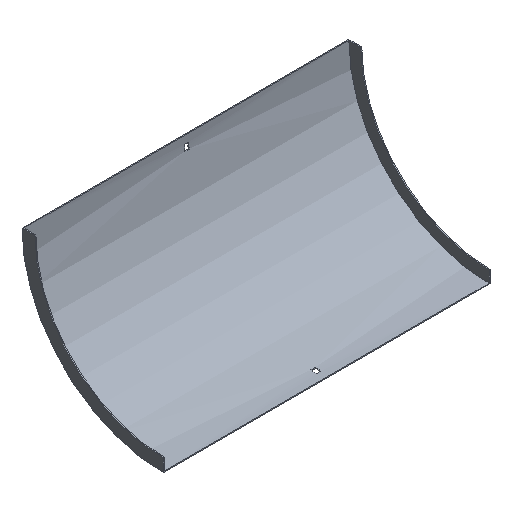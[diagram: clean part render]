
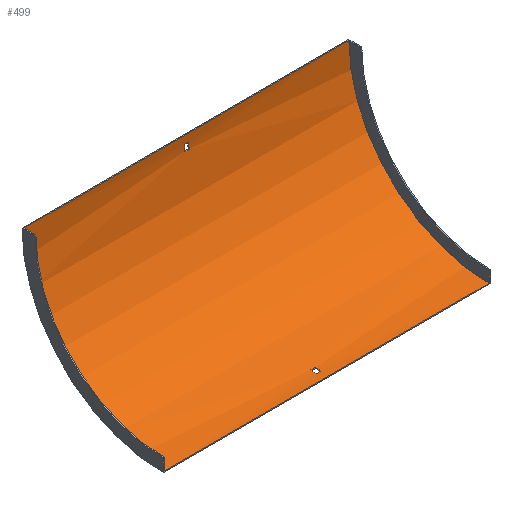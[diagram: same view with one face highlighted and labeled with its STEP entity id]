
A CAD part, isometric view. The second image highlights one B-rep face of the part: STEP entity #499.
In plain terms, the highlighted cylindrical face has radius 217.5 mm (diameter 435 mm), a partial arc.
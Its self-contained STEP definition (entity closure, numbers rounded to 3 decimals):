
#1 = LINE ( 'NONE', #38, #570 ) ;
#3 = CYLINDRICAL_SURFACE ( 'NONE', #494, 217.5 ) ;
#16 = CARTESIAN_POINT ( 'NONE',  ( -3.25, -219., 0. ) ) ;
#17 = VERTEX_POINT ( 'NONE', #207 ) ;
#21 = AXIS2_PLACEMENT_3D ( 'NONE', #83, #75, #263 ) ;
#38 = CARTESIAN_POINT ( 'NONE',  ( 253.5, -1.831, -12. ) ) ;
#47 = EDGE_CURVE ( 'NONE', #536, #415, #467, .T. ) ;
#49 = EDGE_CURVE ( 'NONE', #397, #317, #139, .T. ) ;
#57 = AXIS2_PLACEMENT_3D ( 'NONE', #474, #341, #99 ) ;
#61 = LINE ( 'NONE', #439, #308 ) ;
#65 = CARTESIAN_POINT ( 'NONE',  ( -3.25, -198., -216.484 ) ) ;
#66 = VECTOR ( 'NONE', #261, 1000. ) ;
#69 = VECTOR ( 'NONE', #420, 1000. ) ;
#75 = DIRECTION ( 'NONE',  ( 1., 0., 0. ) ) ;
#83 = CARTESIAN_POINT ( 'NONE',  ( -252., -219., 0. ) ) ;
#99 = DIRECTION ( 'NONE',  ( 0., 0., 1. ) ) ;
#101 = VERTEX_POINT ( 'NONE', #130 ) ;
#105 = ORIENTED_EDGE ( 'NONE', *, *, #245, .F. ) ;
#110 = VERTEX_POINT ( 'NONE', #461 ) ;
#116 = CARTESIAN_POINT ( 'NONE',  ( -3.25, -1.831, -12. ) ) ;
#117 = DIRECTION ( 'NONE',  ( -1., 0., 0. ) ) ;
#126 = CARTESIAN_POINT ( 'NONE',  ( 253.5, -207., -217.169 ) ) ;
#130 = CARTESIAN_POINT ( 'NONE',  ( 3.25, -2.516, -21. ) ) ;
#132 = FACE_BOUND ( 'NONE', #375, .T. ) ;
#138 = CARTESIAN_POINT ( 'NONE',  ( 252., -1.5, 0. ) ) ;
#139 = CIRCLE ( 'NONE', #57, 217.5 ) ;
#143 = EDGE_CURVE ( 'NONE', #147, #519, #271, .T. ) ;
#147 = VERTEX_POINT ( 'NONE', #464 ) ;
#152 = ORIENTED_EDGE ( 'NONE', *, *, #212, .T. ) ;
#155 = CIRCLE ( 'NONE', #506, 217.5 ) ;
#173 = DIRECTION ( 'NONE',  ( 0., 0., 1. ) ) ;
#182 = EDGE_CURVE ( 'NONE', #147, #574, #282, .T. ) ;
#183 = DIRECTION ( 'NONE',  ( -1., 0., 0. ) ) ;
#188 = EDGE_LOOP ( 'NONE', ( #296, #410, #587, #238 ) ) ;
#197 = DIRECTION ( 'NONE',  ( 1., 0., 0. ) ) ;
#203 = CARTESIAN_POINT ( 'NONE',  ( 3.25, -219., 0. ) ) ;
#207 = CARTESIAN_POINT ( 'NONE',  ( 3.25, -207., -217.169 ) ) ;
#212 = EDGE_CURVE ( 'NONE', #17, #536, #218, .T. ) ;
#218 = LINE ( 'NONE', #126, #470 ) ;
#225 = DIRECTION ( 'NONE',  ( -1., 0., 0. ) ) ;
#227 = CIRCLE ( 'NONE', #21, 217.5 ) ;
#230 = EDGE_CURVE ( 'NONE', #519, #110, #227, .T. ) ;
#238 = ORIENTED_EDGE ( 'NONE', *, *, #369, .T. ) ;
#240 = EDGE_CURVE ( 'NONE', #343, #17, #533, .T. ) ;
#243 = ORIENTED_EDGE ( 'NONE', *, *, #49, .F. ) ;
#244 = DIRECTION ( 'NONE',  ( 0., 0., 1. ) ) ;
#245 = EDGE_CURVE ( 'NONE', #317, #101, #453, .T. ) ;
#261 = DIRECTION ( 'NONE',  ( 1., 0., 0. ) ) ;
#263 = DIRECTION ( 'NONE',  ( 0., 0., 1. ) ) ;
#268 = DIRECTION ( 'NONE',  ( 1., 0., 0. ) ) ;
#271 = LINE ( 'NONE', #559, #69 ) ;
#274 = LINE ( 'NONE', #465, #385 ) ;
#275 = CARTESIAN_POINT ( 'NONE',  ( 253.5, -219., 0. ) ) ;
#282 = CIRCLE ( 'NONE', #582, 217.5 ) ;
#296 = ORIENTED_EDGE ( 'NONE', *, *, #230, .F. ) ;
#308 = VECTOR ( 'NONE', #588, 1000. ) ;
#310 = ORIENTED_EDGE ( 'NONE', *, *, #518, .F. ) ;
#317 = VERTEX_POINT ( 'NONE', #408 ) ;
#318 = DIRECTION ( 'NONE',  ( 1., 0., 0. ) ) ;
#322 = DIRECTION ( 'NONE',  ( -1., 0., 0. ) ) ;
#324 = CARTESIAN_POINT ( 'NONE',  ( 3.25, -1.831, -12. ) ) ;
#329 = CARTESIAN_POINT ( 'NONE',  ( -252., -219., -217.5 ) ) ;
#335 = AXIS2_PLACEMENT_3D ( 'NONE', #203, #117, #244 ) ;
#341 = DIRECTION ( 'NONE',  ( -1., 0., 0. ) ) ;
#343 = VERTEX_POINT ( 'NONE', #603 ) ;
#366 = DIRECTION ( 'NONE',  ( 1., 0., 0. ) ) ;
#369 = EDGE_CURVE ( 'NONE', #574, #110, #61, .T. ) ;
#372 = DIRECTION ( 'NONE',  ( 0., 0., 1. ) ) ;
#375 = EDGE_LOOP ( 'NONE', ( #152, #583, #455, #575 ) ) ;
#385 = VECTOR ( 'NONE', #268, 1000. ) ;
#392 = EDGE_LOOP ( 'NONE', ( #243, #310, #481, #105 ) ) ;
#393 = DIRECTION ( 'NONE',  ( 0., 0., -1. ) ) ;
#397 = VERTEX_POINT ( 'NONE', #116 ) ;
#408 = CARTESIAN_POINT ( 'NONE',  ( -3.25, -2.516, -21. ) ) ;
#410 = ORIENTED_EDGE ( 'NONE', *, *, #143, .F. ) ;
#414 = EDGE_CURVE ( 'NONE', #101, #527, #155, .T. ) ;
#415 = VERTEX_POINT ( 'NONE', #65 ) ;
#416 = DIRECTION ( 'NONE',  ( 0., 0., -1. ) ) ;
#420 = DIRECTION ( 'NONE',  ( -1., 0., 0. ) ) ;
#423 = FACE_BOUND ( 'NONE', #392, .T. ) ;
#426 = FACE_OUTER_BOUND ( 'NONE', #188, .T. ) ;
#433 = AXIS2_PLACEMENT_3D ( 'NONE', #16, #197, #393 ) ;
#439 = CARTESIAN_POINT ( 'NONE',  ( 252., -1.5, 0. ) ) ;
#453 = LINE ( 'NONE', #590, #66 ) ;
#455 = ORIENTED_EDGE ( 'NONE', *, *, #599, .T. ) ;
#461 = CARTESIAN_POINT ( 'NONE',  ( -252., -1.5, 0. ) ) ;
#462 = CARTESIAN_POINT ( 'NONE',  ( -3.25, -207., -217.169 ) ) ;
#464 = CARTESIAN_POINT ( 'NONE',  ( 252., -219., -217.5 ) ) ;
#465 = CARTESIAN_POINT ( 'NONE',  ( 253.5, -198., -216.484 ) ) ;
#467 = CIRCLE ( 'NONE', #433, 217.5 ) ;
#470 = VECTOR ( 'NONE', #322, 1000. ) ;
#474 = CARTESIAN_POINT ( 'NONE',  ( -3.25, -219., 0. ) ) ;
#481 = ORIENTED_EDGE ( 'NONE', *, *, #414, .F. ) ;
#494 = AXIS2_PLACEMENT_3D ( 'NONE', #275, #225, #372 ) ;
#499 = ADVANCED_FACE ( 'NONE', ( #423, #426, #132 ), #3, .F. ) ;
#506 = AXIS2_PLACEMENT_3D ( 'NONE', #579, #318, #416 ) ;
#518 = EDGE_CURVE ( 'NONE', #527, #397, #1, .T. ) ;
#519 = VERTEX_POINT ( 'NONE', #329 ) ;
#527 = VERTEX_POINT ( 'NONE', #324 ) ;
#533 = CIRCLE ( 'NONE', #335, 217.5 ) ;
#536 = VERTEX_POINT ( 'NONE', #462 ) ;
#559 = CARTESIAN_POINT ( 'NONE',  ( 252., -219., -217.5 ) ) ;
#570 = VECTOR ( 'NONE', #183, 1000. ) ;
#574 = VERTEX_POINT ( 'NONE', #138 ) ;
#575 = ORIENTED_EDGE ( 'NONE', *, *, #240, .T. ) ;
#579 = CARTESIAN_POINT ( 'NONE',  ( 3.25, -219., 0. ) ) ;
#582 = AXIS2_PLACEMENT_3D ( 'NONE', #601, #366, #173 ) ;
#583 = ORIENTED_EDGE ( 'NONE', *, *, #47, .T. ) ;
#587 = ORIENTED_EDGE ( 'NONE', *, *, #182, .T. ) ;
#588 = DIRECTION ( 'NONE',  ( -1., 0., 0. ) ) ;
#590 = CARTESIAN_POINT ( 'NONE',  ( 253.5, -2.516, -21. ) ) ;
#599 = EDGE_CURVE ( 'NONE', #415, #343, #274, .T. ) ;
#601 = CARTESIAN_POINT ( 'NONE',  ( 252., -219., 0. ) ) ;
#603 = CARTESIAN_POINT ( 'NONE',  ( 3.25, -198., -216.484 ) ) ;
